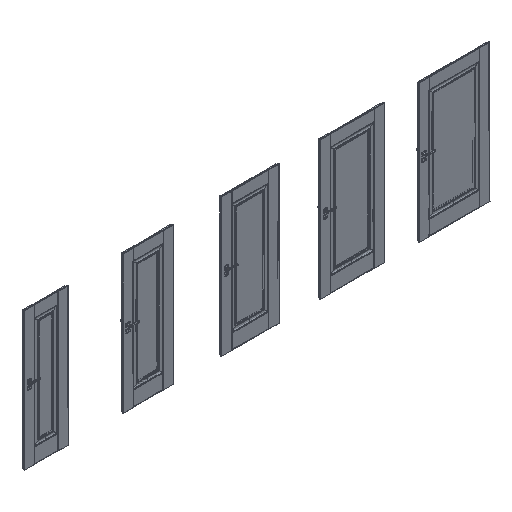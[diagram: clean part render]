
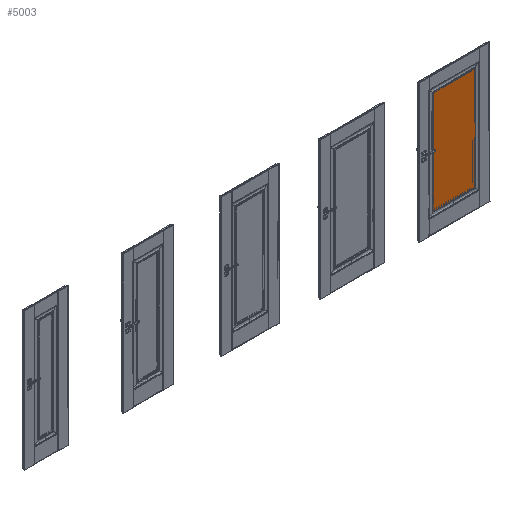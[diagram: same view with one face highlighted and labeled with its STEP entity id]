
A CAD part, isometric view. The second image highlights one B-rep face of the part: STEP entity #5003.
In plain terms, the highlighted planar face has unit normal (0, -1, 0).
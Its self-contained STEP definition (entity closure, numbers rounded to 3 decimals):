
#2989=FACE_OUTER_BOUND('',#9678,.T.);
#5003=ADVANCED_FACE('',(#2989),#6615,.F.);
#6615=PLANE('',#37994);
#9678=EDGE_LOOP('',(#17194,#17195,#17196,#17197));
#17194=ORIENTED_EDGE('',*,*,#27543,.F.);
#17195=ORIENTED_EDGE('',*,*,#27546,.T.);
#17196=ORIENTED_EDGE('',*,*,#27445,.F.);
#17197=ORIENTED_EDGE('',*,*,#27400,.F.);
#23037=VERTEX_POINT('',#58845);
#23038=VERTEX_POINT('',#58847);
#23067=VERTEX_POINT('',#59089);
#23116=VERTEX_POINT('',#59440);
#27400=EDGE_CURVE('',#23037,#23038,#31690,.T.);
#27445=EDGE_CURVE('',#23038,#23067,#31726,.T.);
#27543=EDGE_CURVE('',#23116,#23037,#31802,.T.);
#27546=EDGE_CURVE('',#23116,#23067,#31804,.T.);
#31690=LINE('',#58846,#35133);
#31726=LINE('',#59088,#35169);
#31802=LINE('',#59441,#35245);
#31804=LINE('',#59472,#35247);
#35133=VECTOR('',#45048,1.);
#35169=VECTOR('',#45112,1.);
#35245=VECTOR('',#45280,1.);
#35247=VECTOR('',#45284,1.);
#37994=AXIS2_PLACEMENT_3D('',#59473,#45285,#45286);
#45048=DIRECTION('',(0.,0.,-1.));
#45112=DIRECTION('',(-1.,0.,0.));
#45280=DIRECTION('',(1.,0.,0.));
#45284=DIRECTION('',(0.,0.,-1.));
#45285=DIRECTION('',(0.,1.,0.));
#45286=DIRECTION('',(0.,0.,1.));
#58845=CARTESIAN_POINT('',(6310.,-31.65,1800.));
#58846=CARTESIAN_POINT('',(6310.,-31.65,1040.));
#58847=CARTESIAN_POINT('',(6310.,-31.65,280.));
#59088=CARTESIAN_POINT('',(6000.,-31.65,280.));
#59089=CARTESIAN_POINT('',(5690.,-31.65,280.));
#59440=CARTESIAN_POINT('',(5690.,-31.65,1800.));
#59441=CARTESIAN_POINT('',(6000.,-31.65,1800.));
#59472=CARTESIAN_POINT('',(5690.,-31.65,1040.));
#59473=CARTESIAN_POINT('',(6000.,-31.65,1040.));
